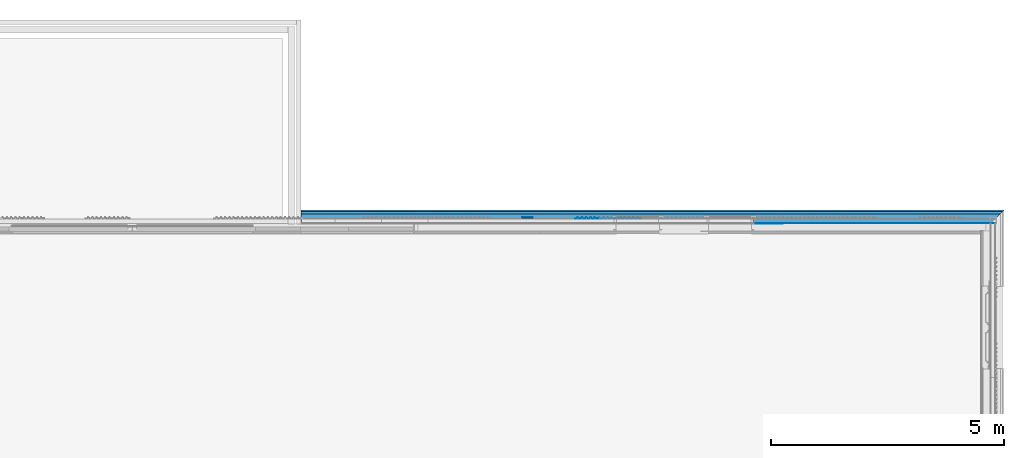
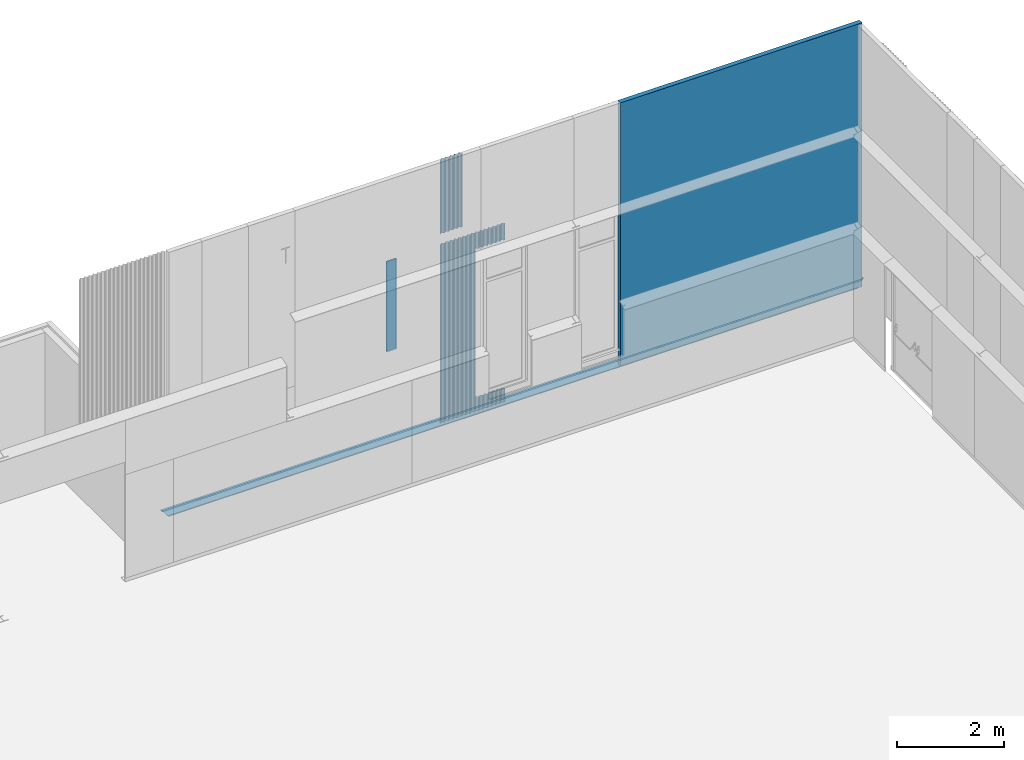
# One storey, part 107 of 338: 10 building element parts, 6 elements without a shape of their own.
"""IFC2X3 building model written with IfcOpenShell, lengths in millimetres."""

from ifc_helpers import new_model, entity, si_unit, converted_unit, derived_unit, money_unit, direction, frame, origin_with_axes, place, context, subcontext, project, spatial, faceted_brep, material, type_object, element, aggregate, save


model = new_model("IFC2X3")

# Units and contexts
model_context = context("Model", 3, precision=0.01, world=origin_with_axes(), true_north=direction((0.0, 1.0)))
plan_context = context("Plan", 3, precision=0.01, world=origin_with_axes(), true_north=direction((0.0, 1.0)))
body_context = subcontext(model_context, "Body", "Model", "MODEL_VIEW")
ifc_project = project(units=[si_unit("LENGTHUNIT", "METRE", prefix="MILLI"), si_unit("AREAUNIT", "SQUARE_METRE"), si_unit("VOLUMEUNIT", "CUBIC_METRE"), converted_unit("PLANEANGLEUNIT", "DEGREE", entity("IfcPlaneAngleMeasure", 0.0174532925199), si_unit("PLANEANGLEUNIT", "RADIAN"), dimensions=[0, 0, 0, 0, 0, 0, 0]), money_unit("EUR"), converted_unit("TIMEUNIT", "Year", entity("IfcTimeMeasure", 31556926.0), si_unit("TIMEUNIT", "SECOND"), dimensions=[0, 0, 1, 0, 0, 0, 0]), si_unit("MASSUNIT", "GRAM", prefix="KILO"), si_unit("THERMODYNAMICTEMPERATUREUNIT", "DEGREE_CELSIUS"), si_unit("LUMINOUSINTENSITYUNIT", "LUMEN"), si_unit("ENERGYUNIT", "JOULE", prefix="MEGA"), derived_unit("THERMALCONDUCTANCEUNIT", [(si_unit("POWERUNIT", "WATT"), 1), (si_unit("LENGTHUNIT", "METRE"), -1), (si_unit("THERMODYNAMICTEMPERATUREUNIT", "KELVIN"), -1)]), derived_unit("SPECIFICHEATCAPACITYUNIT", [(si_unit("ENERGYUNIT", "JOULE"), 1), (si_unit("MASSUNIT", "GRAM", prefix="KILO"), -1), (si_unit("THERMODYNAMICTEMPERATUREUNIT", "KELVIN"), -1)]), derived_unit("MASSDENSITYUNIT", [(si_unit("MASSUNIT", "GRAM", prefix="KILO"), 1), (si_unit("VOLUMEUNIT", "CUBIC_METRE"), -1)])], contexts=[model_context, plan_context])

# Site, building, storey
site_placement = place(None, origin_with_axes())
site = spatial("IfcSite", under=ifc_project, at=site_placement, Name="Fortuinstraat Woensdrecht", CompositionType="ELEMENT")
building_placement = place(site_placement, origin_with_axes())
building = spatial("IfcBuilding", under=site, at=building_placement, Name="IKC Fortuna", CompositionType="ELEMENT")
storey_placement = place(building_placement, origin_with_axes())
storey = spatial("IfcBuildingStorey", under=building, at=storey_placement, Name="00 begane grond", CompositionType="ELEMENT", Elevation=0.0)

# Wall, building element parts
wall_type_1 = type_object("IfcWallType", Name="21 Plankprofiel 37", PredefinedType="NOTDEFINED")
wall_1_placement = place(storey_placement, frame((49588.4257084, 35496.3640064, 3010.0), z_axis=(0.0, 0.0, 1.0), x_axis=(-0.999999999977, 6.74351797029e-06, 0.0)))
wall_1 = element("IfcWall", 1, at=wall_1_placement, inside=storey, type_object=wall_type_1, Name="21_Wand_sandwichplaat")
ifc_material_1 = material(Name="Isolatie - Kunststof hard")
building_element_part_1_placement = place(wall_1_placement, origin_with_axes())
building_element_part_1 = element("IfcBuildingElementPart", 2, at=building_element_part_1_placement, material=ifc_material_1, Name="Isolatie - Kunststof hard", context=body_context, shape_type="Brep", body=[
    faceted_brep([(220.0, -101.0, 0.0), (220.0, -136.0, 0.0), (0.0, -136.0, 0.0), (0.0, -101.0, 0.0), (220.0, -101.0, 2050.85690076), (220.0, -136.0, 2050.85690076), (0.0, -136.0, 2050.85690076), (0.0, -101.0, 2050.85690076)], [[[0, 1, 2, 3]], [[0, 4, 5, 1]], [[1, 5, 6, 2]], [[3, 2, 6, 7]], [[4, 0, 3, 7]], [[5, 4, 7, 6]]]),
])
ifc_material_2 = material(Name="Metaal - Aluminium")
building_element_part_2_placement = place(wall_1_placement, origin_with_axes())
building_element_part_2 = element("IfcBuildingElementPart", 3, at=building_element_part_2_placement, material=ifc_material_2, Name="Metaal - Aluminium", context=body_context, shape_type="Brep", body=[
    faceted_brep([(220.0, -136.0, 0.0), (220.0, -137.0, 0.0), (0.0, -137.0, 0.0), (0.0, -136.0, 0.0), (220.0, -136.0, 2050.85690076), (220.0, -137.0, 2050.85690076), (0.0, -137.0, 2050.85690076), (0.0, -136.0, 2050.85690076)], [[[0, 1, 2, 3]], [[0, 4, 5, 1]], [[1, 5, 6, 2]], [[3, 2, 6, 7]], [[4, 0, 3, 7]], [[5, 4, 7, 6]]]),
])
aggregate(wall_1, [building_element_part_1, building_element_part_2])

# Beam, building element parts
beam_type = type_object("IfcBeamType", Name="41 Waterslag SW - MW 290 x 65", PredefinedType="BEAM")
beam_placement = place(storey_placement, frame((59433.4308144, 35496.2966283, 1020.0), z_axis=(0.0, 0.0, 1.0), x_axis=(0.0, 1.0, 0.0)))
beam = element("IfcBeam", 4, at=beam_placement, inside=storey, type_object=beam_type, Name="28_Balk_UNP203", ObjectType="BEAM")
building_element_part_3_placement = place(beam_placement, origin_with_axes())
building_element_part_3 = element("IfcBuildingElementPart", 5, at=building_element_part_3_placement, material=ifc_material_2, Name="Metaal - Aluminium", context=body_context, shape_type="Brep", body=[
    faceted_brep([(-0.00375728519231, 14820.0030552, -21.1201540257), (0.0, 14820.0030552, -0.00320269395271), (0.999999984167, 14820.0030552, -0.00338062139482), (0.996409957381, 14820.0030552, -20.1802948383), (290.001988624, 14820.0030552, -38.1142266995), (289.997195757, 14820.0030552, -65.0514212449), (269.997199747, 14820.0030552, -65.0443041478), (269.997377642, 14820.0030552, -64.0444820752), (288.997373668, 14820.0030552, -64.0514212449), (289.001821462, 14820.0030552, -39.0540858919), (-0.00375728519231, 0.0037572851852, -21.1201540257), (0.0, 0.0, -0.00320269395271), (0.999999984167, -0.999999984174, -0.00338062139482), (0.996409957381, -0.996409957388, -20.1802948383), (290.001988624, -290.001988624, -38.1142266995), (289.997195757, -289.997195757, -65.0514212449), (269.997199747, -269.997199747, -65.0443041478), (269.997377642, -269.997377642, -64.0444820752), (288.997373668, -288.997373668, -64.0514212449), (289.001821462, -289.001821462, -39.0540858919)], [[[0, 1, 2, 3, 4, 5, 6, 7, 8, 9]], [[1, 0, 10, 11]], [[1, 11, 12, 2]], [[3, 2, 12, 13]], [[4, 3, 13, 14]], [[5, 4, 14, 15]], [[6, 5, 15, 16]], [[7, 6, 16, 17]], [[8, 7, 17, 18]], [[9, 8, 18, 19]], [[10, 0, 9, 19]], [[11, 10, 19, 18, 17, 16, 15, 14, 13, 12]]]),
])
building_element_part_4_placement = place(beam_placement, origin_with_axes())
building_element_part_4 = element("IfcBuildingElementPart", 6, at=building_element_part_4_placement, material=ifc_material_2, Name="Metaal - Aluminium", context=body_context, shape_type="Brep", body=[
    faceted_brep([(287.870165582, 14820.0030552, -62.1067923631), (260.294323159, 14820.0030552, -43.989324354), (260.294323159, -260.294323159, -43.989324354), (287.870165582, -287.870165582, -62.1067923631), (287.321068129, 14820.0030552, -62.942550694), (259.995211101, 14820.0030552, -44.989324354), (209.995211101, 14820.0030552, -44.989324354), (209.995211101, 14820.0030552, -43.989324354), (209.995211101, -209.995211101, -43.989324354), (209.995211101, -209.995211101, -44.989324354), (259.995211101, -259.995211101, -44.989324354), (287.321068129, -287.321068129, -62.942550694)], [[[0, 1, 2, 3]], [[0, 4, 5, 6, 7, 1]], [[1, 7, 8, 2]], [[3, 2, 8, 9, 10, 11]], [[4, 0, 3, 11]], [[5, 4, 11, 10]], [[6, 5, 10, 9]], [[7, 6, 9, 8]]]),
])
aggregate(beam, [building_element_part_3, building_element_part_4])

# Wall, building element parts
wall_type_2 = type_object("IfcWallType", Name="21 sandwich 100", PredefinedType="NOTDEFINED")
wall_2_placement = place(storey_placement, frame((54338.5752228, 35496.296738, 1000.0), z_axis=(0.0, 0.0, 1.0), x_axis=(0.999998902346, 0.00148165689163, 0.0)))
wall_2 = element("IfcWall", 7, at=wall_2_placement, inside=storey, type_object=wall_type_2, Name="21_Wand_sandwichplaat")
building_element_part_5_placement = place(wall_2_placement, origin_with_axes())
building_element_part_5 = element("IfcBuildingElementPart", 8, at=building_element_part_5_placement, material=ifc_material_1, Name="Isolatie - Kunststof hard", context=body_context, shape_type="Brep", body=[
    faceted_brep([(5194.99429769, 0.999999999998, 6000.0), (5194.99429769, 99.0, 6000.0), (0.0, 99.0, 6000.0), (0.0, 0.999999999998, 6000.0), (5194.99429769, 0.999999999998, 0.0), (5194.99429769, 99.0, 0.0), (0.0, 99.0, 0.0), (0.0, 0.999999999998, 0.0)], [[[0, 1, 2, 3]], [[0, 4, 5, 1]], [[1, 5, 6, 2]], [[3, 2, 6, 7]], [[4, 0, 3, 7]], [[5, 4, 7, 6]]]),
])
building_element_part_6_placement = place(wall_2_placement, origin_with_axes())
building_element_part_6 = element("IfcBuildingElementPart", 9, at=building_element_part_6_placement, material=ifc_material_2, Name="Metaal - Aluminium", context=body_context, shape_type="Brep", body=[
    faceted_brep([(0.0, 0.999891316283, 19.9966193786), (0.0, 0.999999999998, 0.0), (672.444664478, 0.0, 0.0), (674.845994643, 0.0, 19.9966193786), (5194.99429769, 0.999999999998, 0.0), (0.0, 0.999999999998, 6000.0), (5194.99429769, 0.999999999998, 6000.0), (5194.99429769, 0.0, 0.0), (5194.99429769, 0.0, 6000.0), (0.0, 0.0, 6000.0), (0.0, 0.0, 19.9967972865)], [[[0, 1, 2, 3]], [[4, 1, 0, 5, 6]], [[7, 2, 1, 4]], [[7, 8, 9, 10, 3, 2]], [[3, 10, 0]], [[5, 0, 10, 9]], [[6, 5, 9, 8]], [[7, 4, 6, 8]]]),
])
aggregate(wall_2, [building_element_part_5, building_element_part_6])

# Proxy, building element parts
building_element_proxy_type = type_object("IfcBuildingElementProxyType", Name="21 Sandwich custom pyramid 946 x 37", PredefinedType="NOTDEFINED")
proxy_1_placement = place(storey_placement, frame((50509.6588228, 35596.2971073, 1000.0), z_axis=(0.0, 0.0, 1.0), x_axis=(1.0, 0.0, 0.0)))
proxy_1 = element("IfcBuildingElementProxy", 10, at=proxy_1_placement, inside=storey, type_object=building_element_proxy_type, Name="41_Generieke bekleding & afwerking buiten_sandwich custom pyramid")
building_element_part_7_placement = place(proxy_1_placement, origin_with_axes())
building_element_part_7 = element("IfcBuildingElementPart", 11, at=building_element_part_7_placement, material=ifc_material_2, Name="Metaal - Aluminium", context=body_context, shape_type="Brep", body=[
    faceted_brep([(0.0, 2.39999686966, 0.0), (0.0, 1.20000548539, 0.0), (0.0, 1.20000548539, 4060.0), (0.0, 2.39999686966, 4060.0), (16.7470988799, 2.39999686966, 0.0), (52.0000026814, 36.6736482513, 0.0), (88.487191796, 1.20000548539, 0.0), (107.51282048, 1.20000548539, 0.0), (143.999995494, 36.6736482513, 0.0), (180.487184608, 1.20000548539, 0.0), (199.512813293, 1.20000548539, 0.0), (236.000002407, 36.6736482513, 0.0), (272.487191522, 1.20000548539, 0.0), (291.512820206, 1.20000548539, 0.0), (327.99999522, 36.6736482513, 0.0), (364.487184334, 1.20000548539, 0.0), (383.512813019, 1.20000548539, 0.0), (420.000002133, 36.6736482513, 0.0), (456.487191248, 1.20000548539, 0.0), (460.000006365, 1.20000548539, 0.0), (477.23428491, 1.20000548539, 0.0), (485.472879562, 9.20975302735, 0.0), (486.309372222, 8.34935896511, 0.0), (477.721464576, 0.0, 0.0), (455.999997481, 0.0, 0.0), (420.000002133, 35.0000001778, 0.0), (384.000006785, 0.0, 0.0), (364.000004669, 0.0, 0.0), (327.99999522, 35.0000001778, 0.0), (291.999999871, 0.0, 0.0), (271.999997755, 0.0, 0.0), (236.000002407, 35.0000001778, 0.0), (199.999992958, 0.0, 0.0), (180.000004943, 0.0, 0.0), (143.999995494, 35.0000001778, 0.0), (108.000000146, 0.0, 0.0), (87.9999980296, 0.0, 0.0), (52.0000026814, 35.0000001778, 0.0), (17.2342926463, 1.20000548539, 0.0), (17.2342926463, 1.20000548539, 4060.0), (52.0000026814, 35.0000001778, 4060.0), (87.9999980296, 0.0, 4060.0), (108.000000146, 0.0, 4060.0), (143.999995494, 35.0000001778, 4060.0), (180.000004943, 0.0, 4060.0), (199.999992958, 0.0, 4060.0), (236.000002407, 35.0000001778, 4060.0), (271.999997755, 0.0, 4060.0), (291.999999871, 0.0, 4060.0), (327.99999522, 35.0000001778, 4060.0), (364.000004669, 0.0, 4060.0), (384.000006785, 0.0, 4060.0), (420.000002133, 35.0000001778, 4060.0), (455.999997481, 0.0, 4060.0), (477.721464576, 0.0, 4060.0), (486.309372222, 8.34935896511, 4060.0), (485.472879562, 9.20975302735, 4060.0), (477.23428491, 1.20000548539, 4060.0), (460.000006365, 1.20000548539, 4060.0), (456.487191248, 1.20000548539, 4060.0), (420.000002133, 36.6736482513, 4060.0), (383.512813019, 1.20000548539, 4060.0), (364.487184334, 1.20000548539, 4060.0), (327.99999522, 36.6736482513, 4060.0), (291.512820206, 1.20000548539, 4060.0), (272.487191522, 1.20000548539, 4060.0), (236.000002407, 36.6736482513, 4060.0), (199.512813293, 1.20000548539, 4060.0), (180.487184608, 1.20000548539, 4060.0), (143.999995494, 36.6736482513, 4060.0), (107.51282048, 1.20000548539, 4060.0), (88.487191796, 1.20000548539, 4060.0), (52.0000026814, 36.6736482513, 4060.0), (16.7470988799, 2.39999686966, 4060.0)], [[[0, 1, 2, 3]], [[0, 4, 5, 6, 7, 8, 9, 10, 11, 12, 13, 14, 15, 16, 17, 18, 19, 20, 21, 22, 23, 24, 25, 26, 27, 28, 29, 30, 31, 32, 33, 34, 35, 36, 37, 38, 1]], [[1, 38, 39, 2]], [[3, 2, 39, 40, 41, 42, 43, 44, 45, 46, 47, 48, 49, 50, 51, 52, 53, 54, 55, 56, 57, 58, 59, 60, 61, 62, 63, 64, 65, 66, 67, 68, 69, 70, 71, 72, 73]], [[4, 0, 3, 73]], [[5, 4, 73, 72]], [[6, 5, 72, 71]], [[7, 6, 71, 70]], [[8, 7, 70, 69]], [[9, 8, 69, 68]], [[10, 9, 68, 67]], [[11, 10, 67, 66]], [[12, 11, 66, 65]], [[13, 12, 65, 64]], [[14, 13, 64, 63]], [[15, 14, 63, 62]], [[16, 15, 62, 61]], [[17, 16, 61, 60]], [[18, 17, 60, 59]], [[19, 18, 59, 58]], [[20, 19, 58, 57]], [[21, 20, 57, 56]], [[22, 21, 56, 55]], [[23, 22, 55, 54]], [[24, 23, 54, 53]], [[25, 24, 53, 52]], [[26, 25, 52, 51]], [[27, 26, 51, 50]], [[28, 27, 50, 49]], [[29, 28, 49, 48]], [[30, 29, 48, 47]], [[31, 30, 47, 46]], [[32, 31, 46, 45]], [[33, 32, 45, 44]], [[34, 33, 44, 43]], [[35, 34, 43, 42]], [[36, 35, 42, 41]], [[37, 36, 41, 40]], [[38, 37, 40, 39]]]),
])
building_element_part_8_placement = place(proxy_1_placement, origin_with_axes())
building_element_part_8 = element("IfcBuildingElementPart", 12, at=building_element_part_8_placement, material=ifc_material_2, Name="Metaal - Aluminium", context=body_context, shape_type="Brep", body=[
    faceted_brep([(937.721470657, 0.0, 4060.0), (937.721470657, 0.0, 3675.02818538), (946.309378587, 8.34935493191, 3675.02818538), (946.309378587, 8.34935493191, 4060.0), (916.0, 0.0, 4060.0), (916.0, 0.0, 3675.02818538), (937.234285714, 1.2, 3675.02818538), (945.472884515, 9.20974883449, 3675.02818538), (880.0, 35.0, 3675.02818538), (844.0, 0.0, 3675.02818538), (824.0, 0.0, 3675.02818538), (788.768193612, 34.2531450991, 3675.02818538), (788.768193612, 35.9267971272, 3675.02818538), (824.487184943, 1.2, 3675.02818538), (843.512815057, 1.2, 3675.02818538), (880.0, 36.6736520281, 3675.02818538), (916.487184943, 1.2, 3675.02818538), (945.472884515, 9.20974883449, 4060.0), (476.747100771, 2.4, 4060.0), (460.0, 2.4, 4060.0), (460.0, 1.2, 4060.0), (477.234285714, 1.2, 4060.0), (485.472879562, 9.20975302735, 4060.0), (512.0, 35.0, 4060.0), (548.0, 0.0, 4060.0), (568.0, 0.0, 4060.0), (604.0, 35.0, 4060.0), (640.0, 0.0, 4060.0), (660.0, 0.0, 4060.0), (696.0, 35.0, 4060.0), (732.0, 0.0, 4060.0), (752.0, 0.0, 4060.0), (788.0, 35.0, 4060.0), (824.0, 0.0, 4060.0), (844.0, 0.0, 4060.0), (880.0, 35.0, 4060.0), (937.234285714, 1.2, 4060.0), (916.487184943, 1.2, 4060.0), (880.0, 36.6736520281, 4060.0), (843.512815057, 1.2, 4060.0), (824.487184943, 1.2, 4060.0), (788.0, 36.6736520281, 4060.0), (751.512815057, 1.2, 4060.0), (732.487184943, 1.2, 4060.0), (696.0, 36.6736520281, 4060.0), (659.512815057, 1.2, 4060.0), (640.487184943, 1.2, 4060.0), (604.0, 36.6736520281, 4060.0), (567.512815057, 1.2, 4060.0), (548.487184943, 1.2, 4060.0), (512.0, 36.6736520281, 4060.0), (788.768193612, 34.2531450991, 315.028185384), (788.0, 35.0, 0.0), (824.0, 0.0, 0.0), (824.0, 0.0, 315.028185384), (788.768193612, 35.9267971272, 315.028185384), (824.487184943, 1.2, 315.028185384), (824.487184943, 1.2, 0.0), (788.0, 36.6736520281, 0.0), (476.747100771, 2.4, 0.0), (460.0, 2.4, 0.0), (460.0, 1.2, 0.0), (477.234285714, 1.2, 0.0), (485.472879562, 9.20975302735, 0.0), (512.0, 35.0, 0.0), (548.0, 0.0, 0.0), (568.0, 0.0, 0.0), (604.0, 35.0, 0.0), (640.0, 0.0, 0.0), (660.0, 0.0, 0.0), (696.0, 35.0, 0.0), (732.0, 0.0, 0.0), (752.0, 0.0, 0.0), (751.512815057, 1.2, 0.0), (732.487184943, 1.2, 0.0), (696.0, 36.6736520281, 0.0), (659.512815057, 1.2, 0.0), (640.487184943, 1.2, 0.0), (604.0, 36.6736520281, 0.0), (567.512815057, 1.2, 0.0), (548.487184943, 1.2, 0.0), (512.0, 36.6736520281, 0.0), (843.512815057, 1.2, 0.0), (880.0, 36.6736520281, 0.0), (916.487184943, 1.2, 0.0), (937.234285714, 1.2, 0.0), (945.472884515, 9.20974883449, 0.0), (946.309378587, 8.34935493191, 0.0), (937.721470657, 0.0, 0.0), (916.0, 0.0, 0.0), (880.0, 35.0, 0.0), (844.0, 0.0, 0.0), (844.0, 0.0, 315.028185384), (916.0, 0.0, 315.028185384), (937.721470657, 0.0, 315.028185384), (946.309378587, 8.34935493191, 315.028185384), (945.472884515, 9.20974883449, 315.028185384), (937.234285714, 1.2, 315.028185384), (916.487184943, 1.2, 315.028185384), (880.0, 36.6736520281, 315.028185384), (843.512815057, 1.2, 315.028185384), (880.0, 35.0, 315.028185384)], [[[0, 1, 2, 3]], [[4, 5, 1, 0]], [[6, 7, 2, 1, 5, 8, 9, 10, 11, 12, 13, 14, 15, 16]], [[3, 2, 7, 17]], [[18, 19, 20, 21, 22, 23, 24, 25, 26, 27, 28, 29, 30, 31, 32, 33, 34, 35, 4, 0, 3, 17, 36, 37, 38, 39, 40, 41, 42, 43, 44, 45, 46, 47, 48, 49, 50]], [[35, 8, 5, 4]], [[17, 7, 6, 36]], [[34, 9, 8, 35]], [[33, 10, 9, 34]], [[51, 11, 10, 33, 32, 52, 53, 54]], [[51, 55, 12, 11]], [[12, 55, 56, 57, 58, 41, 40, 13]], [[39, 14, 13, 40]], [[38, 15, 14, 39]], [[37, 16, 15, 38]], [[36, 6, 16, 37]], [[19, 18, 59, 60]], [[20, 19, 60, 61]], [[21, 20, 61, 62]], [[22, 21, 62, 63]], [[23, 22, 63, 64]], [[24, 23, 64, 65]], [[25, 24, 65, 66]], [[26, 25, 66, 67]], [[27, 26, 67, 68]], [[28, 27, 68, 69]], [[29, 28, 69, 70]], [[30, 29, 70, 71]], [[31, 30, 71, 72]], [[32, 31, 72, 52]], [[42, 41, 58, 73]], [[43, 42, 73, 74]], [[44, 43, 74, 75]], [[45, 44, 75, 76]], [[46, 45, 76, 77]], [[47, 46, 77, 78]], [[48, 47, 78, 79]], [[49, 48, 79, 80]], [[50, 49, 80, 81]], [[18, 50, 81, 59]], [[63, 62, 61, 60, 59, 81, 80, 79, 78, 77, 76, 75, 74, 73, 58, 57, 82, 83, 84, 85, 86, 87, 88, 89, 90, 91, 53, 52, 72, 71, 70, 69, 68, 67, 66, 65, 64]], [[91, 92, 54, 53]], [[93, 94, 95, 96, 97, 98, 99, 100, 56, 55, 51, 54, 92, 101]], [[57, 56, 100, 82]], [[82, 100, 99, 83]], [[83, 99, 98, 84]], [[84, 98, 97, 85]], [[85, 97, 96, 86]], [[86, 96, 95, 87]], [[87, 95, 94, 88]], [[88, 94, 93, 89]], [[89, 93, 101, 90]], [[90, 101, 92, 91]]]),
])
aggregate(proxy_1, [building_element_part_7, building_element_part_8])

# Proxy, building element part
proxy_2_placement = place(storey_placement, frame((51429.6588228, 35596.2971073, 1000.0), z_axis=(0.0, 0.0, 1.0), x_axis=(1.0, 0.0, 0.0)))
proxy_2 = element("IfcBuildingElementProxy", 13, at=proxy_2_placement, inside=storey, type_object=building_element_proxy_type, Name="41_Generieke bekleding & afwerking buiten_sandwich custom pyramid")
building_element_part_9_placement = place(proxy_2_placement, origin_with_axes())
building_element_part_9 = element("IfcBuildingElementPart", 14, at=building_element_part_9_placement, material=ifc_material_2, Name="Metaal - Aluminium", context=body_context, shape_type="Brep", body=[
    faceted_brep([(485.472879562, 9.20975302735, 0.0), (485.472879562, 9.20975302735, 315.028185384), (486.309372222, 8.34935896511, 315.028185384), (486.309372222, 8.34935896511, 0.0), (477.23428491, 1.20000548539, 0.0), (477.23428491, 1.20000548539, 315.028185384), (455.999997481, 0.0, 315.028185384), (477.721464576, 0.0, 315.028185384), (460.000006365, 1.20000548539, 315.028185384), (456.487191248, 1.20000548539, 315.028185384), (420.000002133, 36.6736482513, 315.028185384), (383.512813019, 1.20000548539, 315.028185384), (364.487184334, 1.20000548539, 315.028185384), (327.99999522, 36.6736482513, 315.028185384), (291.512820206, 1.20000548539, 315.028185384), (272.487191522, 1.20000548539, 315.028185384), (236.000002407, 36.6736482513, 315.028185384), (199.512813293, 1.20000548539, 315.028185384), (180.487184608, 1.20000548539, 315.028185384), (143.999995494, 36.6736482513, 315.028185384), (107.51282048, 1.20000548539, 315.028185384), (88.487191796, 1.20000548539, 315.028185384), (52.0000026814, 36.6736482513, 315.028185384), (16.7470988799, 2.39999686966, 315.028185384), (0.0, 2.39999686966, 315.028185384), (0.0, 1.20000548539, 315.028185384), (17.2342926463, 1.20000548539, 315.028185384), (52.0000026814, 35.0000001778, 315.028185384), (87.9999980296, 0.0, 315.028185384), (108.000000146, 0.0, 315.028185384), (143.999995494, 35.0000001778, 315.028185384), (180.000004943, 0.0, 315.028185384), (199.999992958, 0.0, 315.028185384), (236.000002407, 35.0000001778, 315.028185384), (271.999997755, 0.0, 315.028185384), (291.999999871, 0.0, 315.028185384), (327.99999522, 35.0000001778, 315.028185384), (364.000004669, 0.0, 315.028185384), (384.000006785, 0.0, 315.028185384), (420.000002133, 35.0000001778, 315.028185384), (477.721464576, 0.0, 0.0), (17.2342926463, 1.20000548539, 0.0), (0.0, 1.20000548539, 0.0), (0.0, 2.39999686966, 0.0), (16.7470988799, 2.39999686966, 0.0), (52.0000026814, 36.6736482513, 0.0), (88.487191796, 1.20000548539, 0.0), (107.51282048, 1.20000548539, 0.0), (143.999995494, 36.6736482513, 0.0), (180.487184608, 1.20000548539, 0.0), (199.512813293, 1.20000548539, 0.0), (236.000002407, 36.6736482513, 0.0), (272.487191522, 1.20000548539, 0.0), (291.512820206, 1.20000548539, 0.0), (327.99999522, 36.6736482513, 0.0), (364.487184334, 1.20000548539, 0.0), (383.512813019, 1.20000548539, 0.0), (420.000002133, 36.6736482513, 0.0), (456.487191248, 1.20000548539, 0.0), (460.000006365, 1.20000548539, 0.0), (455.999997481, 0.0, 0.0), (420.000002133, 35.0000001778, 0.0), (384.000006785, 0.0, 0.0), (364.000004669, 0.0, 0.0), (327.99999522, 35.0000001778, 0.0), (291.999999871, 0.0, 0.0), (271.999997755, 0.0, 0.0), (236.000002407, 35.0000001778, 0.0), (199.999992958, 0.0, 0.0), (180.000004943, 0.0, 0.0), (143.999995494, 35.0000001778, 0.0), (108.000000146, 0.0, 0.0), (87.9999980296, 0.0, 0.0), (52.0000026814, 35.0000001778, 0.0)], [[[0, 1, 2, 3]], [[4, 5, 1, 0]], [[6, 7, 2, 1, 5, 8, 9, 10, 11, 12, 13, 14, 15, 16, 17, 18, 19, 20, 21, 22, 23, 24, 25, 26, 27, 28, 29, 30, 31, 32, 33, 34, 35, 36, 37, 38, 39]], [[3, 2, 7, 40]], [[41, 42, 43, 44, 45, 46, 47, 48, 49, 50, 51, 52, 53, 54, 55, 56, 57, 58, 59, 4, 0, 3, 40, 60, 61, 62, 63, 64, 65, 66, 67, 68, 69, 70, 71, 72, 73]], [[59, 8, 5, 4]], [[40, 7, 6, 60]], [[58, 9, 8, 59]], [[57, 10, 9, 58]], [[56, 11, 10, 57]], [[55, 12, 11, 56]], [[54, 13, 12, 55]], [[53, 14, 13, 54]], [[52, 15, 14, 53]], [[51, 16, 15, 52]], [[50, 17, 16, 51]], [[49, 18, 17, 50]], [[48, 19, 18, 49]], [[47, 20, 19, 48]], [[46, 21, 20, 47]], [[45, 22, 21, 46]], [[44, 23, 22, 45]], [[43, 24, 23, 44]], [[42, 25, 24, 43]], [[41, 26, 25, 42]], [[73, 27, 26, 41]], [[72, 28, 27, 73]], [[71, 29, 28, 72]], [[70, 30, 29, 71]], [[69, 31, 30, 70]], [[68, 32, 31, 69]], [[67, 33, 32, 68]], [[66, 34, 33, 67]], [[65, 35, 34, 66]], [[64, 36, 35, 65]], [[63, 37, 36, 64]], [[62, 38, 37, 63]], [[61, 39, 38, 62]], [[60, 6, 39, 61]]]),
    faceted_brep([(477.721464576, 0.0, 4060.0), (477.721464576, 0.0, 3675.02818538), (486.309372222, 8.34935896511, 3675.02818538), (486.309372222, 8.34935896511, 4060.0), (455.999997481, 0.0, 4060.0), (455.999997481, 0.0, 3675.02818538), (477.23428491, 1.20000548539, 3675.02818538), (485.472879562, 9.20975302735, 3675.02818538), (420.000002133, 35.0000001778, 3675.02818538), (384.000006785, 0.0, 3675.02818538), (364.000004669, 0.0, 3675.02818538), (327.99999522, 35.0000001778, 3675.02818538), (291.999999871, 0.0, 3675.02818538), (271.999997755, 0.0, 3675.02818538), (236.000002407, 35.0000001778, 3675.02818538), (199.999992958, 0.0, 3675.02818538), (180.000004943, 0.0, 3675.02818538), (143.999995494, 35.0000001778, 3675.02818538), (108.000000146, 0.0, 3675.02818538), (87.9999980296, 0.0, 3675.02818538), (52.0000026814, 35.0000001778, 3675.02818538), (17.2342926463, 1.20000548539, 3675.02818538), (0.0, 1.20000548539, 3675.02818538), (0.0, 2.39999686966, 3675.02818538), (16.7470988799, 2.39999686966, 3675.02818538), (52.0000026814, 36.6736482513, 3675.02818538), (88.487191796, 1.20000548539, 3675.02818538), (107.51282048, 1.20000548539, 3675.02818538), (143.999995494, 36.6736482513, 3675.02818538), (180.487184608, 1.20000548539, 3675.02818538), (199.512813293, 1.20000548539, 3675.02818538), (236.000002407, 36.6736482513, 3675.02818538), (272.487191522, 1.20000548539, 3675.02818538), (291.512820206, 1.20000548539, 3675.02818538), (327.99999522, 36.6736482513, 3675.02818538), (364.487184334, 1.20000548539, 3675.02818538), (383.512813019, 1.20000548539, 3675.02818538), (420.000002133, 36.6736482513, 3675.02818538), (456.487191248, 1.20000548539, 3675.02818538), (460.000006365, 1.20000548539, 3675.02818538), (485.472879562, 9.20975302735, 4060.0), (52.0000026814, 36.6736482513, 4060.0), (16.7470988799, 2.39999686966, 4060.0), (0.0, 2.39999686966, 4060.0), (0.0, 1.20000548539, 4060.0), (17.2342926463, 1.20000548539, 4060.0), (52.0000026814, 35.0000001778, 4060.0), (87.9999980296, 0.0, 4060.0), (108.000000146, 0.0, 4060.0), (143.999995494, 35.0000001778, 4060.0), (180.000004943, 0.0, 4060.0), (199.999992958, 0.0, 4060.0), (236.000002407, 35.0000001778, 4060.0), (271.999997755, 0.0, 4060.0), (291.999999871, 0.0, 4060.0), (327.99999522, 35.0000001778, 4060.0), (364.000004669, 0.0, 4060.0), (384.000006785, 0.0, 4060.0), (420.000002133, 35.0000001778, 4060.0), (477.23428491, 1.20000548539, 4060.0), (460.000006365, 1.20000548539, 4060.0), (456.487191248, 1.20000548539, 4060.0), (420.000002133, 36.6736482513, 4060.0), (383.512813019, 1.20000548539, 4060.0), (364.487184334, 1.20000548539, 4060.0), (327.99999522, 36.6736482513, 4060.0), (291.512820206, 1.20000548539, 4060.0), (272.487191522, 1.20000548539, 4060.0), (236.000002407, 36.6736482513, 4060.0), (199.512813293, 1.20000548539, 4060.0), (180.487184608, 1.20000548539, 4060.0), (143.999995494, 36.6736482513, 4060.0), (107.51282048, 1.20000548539, 4060.0), (88.487191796, 1.20000548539, 4060.0)], [[[0, 1, 2, 3]], [[4, 5, 1, 0]], [[6, 7, 2, 1, 5, 8, 9, 10, 11, 12, 13, 14, 15, 16, 17, 18, 19, 20, 21, 22, 23, 24, 25, 26, 27, 28, 29, 30, 31, 32, 33, 34, 35, 36, 37, 38, 39]], [[3, 2, 7, 40]], [[41, 42, 43, 44, 45, 46, 47, 48, 49, 50, 51, 52, 53, 54, 55, 56, 57, 58, 4, 0, 3, 40, 59, 60, 61, 62, 63, 64, 65, 66, 67, 68, 69, 70, 71, 72, 73]], [[58, 8, 5, 4]], [[40, 7, 6, 59]], [[57, 9, 8, 58]], [[56, 10, 9, 57]], [[55, 11, 10, 56]], [[54, 12, 11, 55]], [[53, 13, 12, 54]], [[52, 14, 13, 53]], [[51, 15, 14, 52]], [[50, 16, 15, 51]], [[49, 17, 16, 50]], [[48, 18, 17, 49]], [[47, 19, 18, 48]], [[46, 20, 19, 47]], [[45, 21, 20, 46]], [[44, 22, 21, 45]], [[43, 23, 22, 44]], [[42, 24, 23, 43]], [[41, 25, 24, 42]], [[73, 26, 25, 41]], [[72, 27, 26, 73]], [[71, 28, 27, 72]], [[70, 29, 28, 71]], [[69, 30, 29, 70]], [[68, 31, 30, 69]], [[67, 32, 31, 68]], [[66, 33, 32, 67]], [[65, 34, 33, 66]], [[64, 35, 34, 65]], [[63, 36, 35, 64]], [[62, 37, 36, 63]], [[61, 38, 37, 62]], [[60, 39, 38, 61]], [[59, 6, 39, 60]]]),
])
aggregate(proxy_2, [building_element_part_9])

proxy_3_placement = place(storey_placement, frame((50509.6588228, 35596.2966199, 5289.99999237), z_axis=(0.0, 0.0, 1.0), x_axis=(1.0, 0.0, 0.0)))
proxy_3 = element("IfcBuildingElementProxy", 15, at=proxy_3_placement, inside=storey, type_object=building_element_proxy_type, Name="41_Generieke bekleding & afwerking buiten_sandwich custom pyramid")
building_element_part_10_placement = place(proxy_3_placement, origin_with_axes())
building_element_part_10 = element("IfcBuildingElementPart", 16, at=building_element_part_10_placement, material=ifc_material_2, Name="Metaal - Aluminium", context=body_context, shape_type="Brep", body=[
    faceted_brep([(0.0, 2.39999686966, 0.0), (0.0, 1.20000548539, 0.0), (0.0, 1.20000548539, 1690.00000566), (0.0, 2.39999686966, 1690.00000566), (16.7470988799, 2.39999686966, 0.0), (52.0000026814, 36.6736482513, 0.0), (88.487191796, 1.20000548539, 0.0), (107.51282048, 1.20000548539, 0.0), (143.999995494, 36.6736482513, 0.0), (180.487184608, 1.20000548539, 0.0), (199.512813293, 1.20000548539, 0.0), (236.000002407, 36.6736482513, 0.0), (272.487191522, 1.20000548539, 0.0), (291.512820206, 1.20000548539, 0.0), (327.99999522, 36.6736482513, 0.0), (364.487184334, 1.20000548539, 0.0), (383.512813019, 1.20000548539, 0.0), (420.000002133, 36.6736482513, 0.0), (456.487191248, 1.20000548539, 0.0), (460.000006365, 1.20000548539, 0.0), (477.23428491, 1.20000548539, 0.0), (485.472879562, 9.20975302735, 0.0), (486.309372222, 8.34935896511, 0.0), (477.721464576, 0.0, 0.0), (455.999997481, 0.0, 0.0), (420.000002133, 35.0000001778, 0.0), (384.000006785, 0.0, 0.0), (364.000004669, 0.0, 0.0), (327.99999522, 35.0000001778, 0.0), (291.999999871, 0.0, 0.0), (271.999997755, 0.0, 0.0), (236.000002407, 35.0000001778, 0.0), (199.999992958, 0.0, 0.0), (180.000004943, 0.0, 0.0), (143.999995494, 35.0000001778, 0.0), (108.000000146, 0.0, 0.0), (87.9999980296, 0.0, 0.0), (52.0000026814, 35.0000001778, 0.0), (17.2342926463, 1.20000548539, 0.0), (17.2342926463, 1.20000548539, 1690.00000566), (52.0000026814, 35.0000001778, 1690.00000566), (87.9999980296, 0.0, 1690.00000566), (108.000000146, 0.0, 1690.00000566), (143.999995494, 35.0000001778, 1690.00000566), (180.000004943, 0.0, 1690.00000566), (199.999992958, 0.0, 1690.00000566), (236.000002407, 35.0000001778, 1690.00000566), (271.999997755, 0.0, 1690.00000566), (291.999999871, 0.0, 1690.00000566), (327.99999522, 35.0000001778, 1690.00000566), (364.000004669, 0.0, 1690.00000566), (384.000006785, 0.0, 1690.00000566), (420.000002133, 35.0000001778, 1690.00000566), (455.999997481, 0.0, 1690.00000566), (477.721464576, 0.0, 1690.00000566), (486.309372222, 8.34935896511, 1690.00000566), (485.472879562, 9.20975302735, 1690.00000566), (477.23428491, 1.20000548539, 1690.00000566), (460.000006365, 1.20000548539, 1690.00000566), (456.487191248, 1.20000548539, 1690.00000566), (420.000002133, 36.6736482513, 1690.00000566), (383.512813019, 1.20000548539, 1690.00000566), (364.487184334, 1.20000548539, 1690.00000566), (327.99999522, 36.6736482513, 1690.00000566), (291.512820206, 1.20000548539, 1690.00000566), (272.487191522, 1.20000548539, 1690.00000566), (236.000002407, 36.6736482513, 1690.00000566), (199.512813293, 1.20000548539, 1690.00000566), (180.487184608, 1.20000548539, 1690.00000566), (143.999995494, 36.6736482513, 1690.00000566), (107.51282048, 1.20000548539, 1690.00000566), (88.487191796, 1.20000548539, 1690.00000566), (52.0000026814, 36.6736482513, 1690.00000566), (16.7470988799, 2.39999686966, 1690.00000566)], [[[0, 1, 2, 3]], [[0, 4, 5, 6, 7, 8, 9, 10, 11, 12, 13, 14, 15, 16, 17, 18, 19, 20, 21, 22, 23, 24, 25, 26, 27, 28, 29, 30, 31, 32, 33, 34, 35, 36, 37, 38, 1]], [[1, 38, 39, 2]], [[3, 2, 39, 40, 41, 42, 43, 44, 45, 46, 47, 48, 49, 50, 51, 52, 53, 54, 55, 56, 57, 58, 59, 60, 61, 62, 63, 64, 65, 66, 67, 68, 69, 70, 71, 72, 73]], [[4, 0, 3, 73]], [[5, 4, 73, 72]], [[6, 5, 72, 71]], [[7, 6, 71, 70]], [[8, 7, 70, 69]], [[9, 8, 69, 68]], [[10, 9, 68, 67]], [[11, 10, 67, 66]], [[12, 11, 66, 65]], [[13, 12, 65, 64]], [[14, 13, 64, 63]], [[15, 14, 63, 62]], [[16, 15, 62, 61]], [[17, 16, 61, 60]], [[18, 17, 60, 59]], [[19, 18, 59, 58]], [[20, 19, 58, 57]], [[21, 20, 57, 56]], [[22, 21, 56, 55]], [[23, 22, 55, 54]], [[24, 23, 54, 53]], [[25, 24, 53, 52]], [[26, 25, 52, 51]], [[27, 26, 51, 50]], [[28, 27, 50, 49]], [[29, 28, 49, 48]], [[30, 29, 48, 47]], [[31, 30, 47, 46]], [[32, 31, 46, 45]], [[33, 32, 45, 44]], [[34, 33, 44, 43]], [[35, 34, 43, 42]], [[36, 35, 42, 41]], [[37, 36, 41, 40]], [[38, 37, 40, 39]]]),
])
aggregate(proxy_3, [building_element_part_10])

save(model, "model.ifc")
